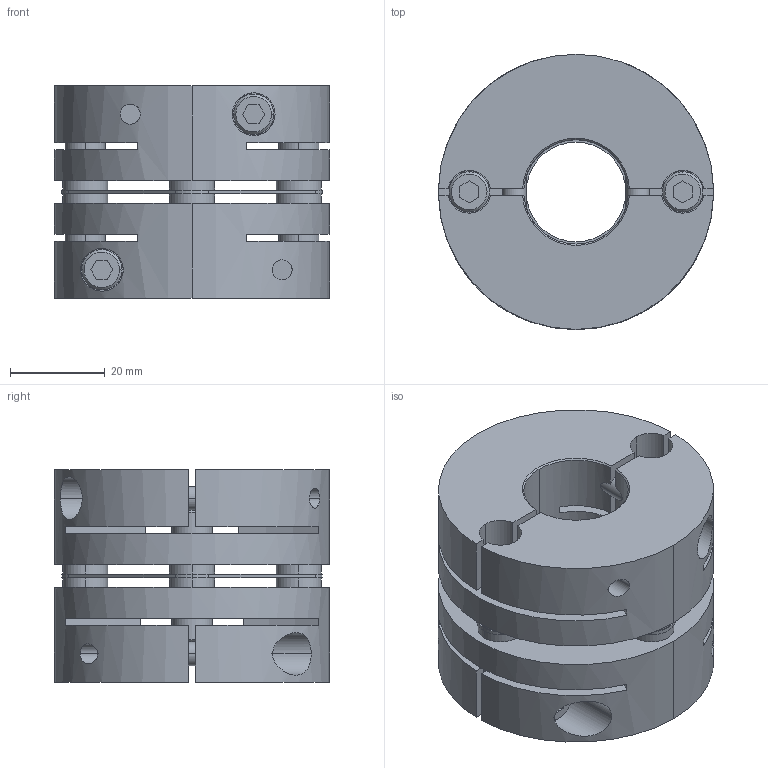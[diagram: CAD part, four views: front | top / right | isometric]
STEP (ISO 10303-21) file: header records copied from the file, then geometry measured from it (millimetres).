
FILE_DESCRIPTION((''),'2;1');
FILE_NAME('LAS-58C-22×24.stp','2015-10-15T14:58:32',(''),(''),'AutoCAD STEP 2000i','AutoCAD 2000i',', , ');
FILE_SCHEMA(('CONFIG_CONTROL_DESIGN'));
Length unit declared in the file: millimetre
Products named in the file (6): LAS-58C-12×19; 忣兜1; LA-5802-D19; LA-5802-D12-1; LA-5802-D12; LAS58-ITA
Assembly tree (5 placements, depth 2):
  LAS-58C-12×19
    忣兜1
    LA-5802-D19
    LA-5802-D12-1
    LA-5802-D12
    LAS58-ITA
Bounding box: 58 x 58 x 44.8 mm (x, y, z)
Volume: 80358.9 mm3; surface area: 32465.5 mm2
Topology: 1 solids, 1 shells, 238 faces, 630 edges, 412 vertices
Faces by surface type: plane 114, cylinder 96, cone 28
Entity records: 8409 total; most frequent: CARTESIAN_POINT 2128, DIRECTION 1320, ORIENTED_EDGE 1264, EDGE_CURVE 632, AXIS2_PLACEMENT_3D 484, VERTEX_POINT 412, VECTOR 352, LINE 352
